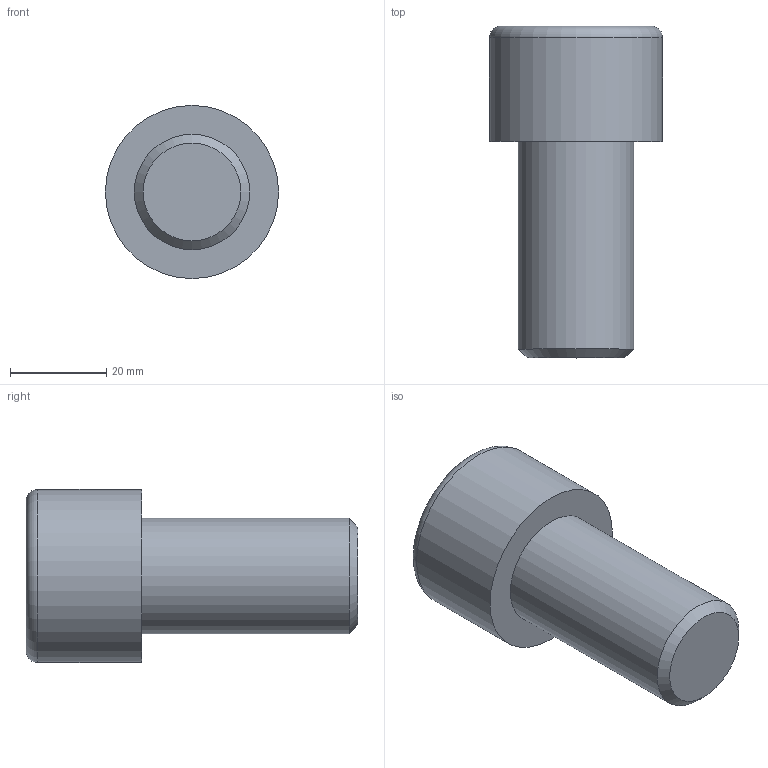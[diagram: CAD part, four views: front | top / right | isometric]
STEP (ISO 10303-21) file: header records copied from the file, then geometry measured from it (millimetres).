
FILE_DESCRIPTION(/* description */ (''),/* implementation_level */ '2;1');
FILE_NAME(/* name */ 'C:\Users\D\Documents\Inventor\各種小物\JIS\JIS B 1176 六角穴付きボルト\M24x45.stp',/* time_stamp */ '2022-05-09T19:00:01+09:00',/* author */ ('D'),/* organization */ (''),/* preprocessor_version */ 'ST-DEVELOPER v18',/* originating_system */ 'Autodesk Inventor 2020',/* authorisation */ '');
FILE_SCHEMA (('AUTOMOTIVE_DESIGN { 1 0 10303 214 3 1 1 }'));
Length unit declared in the file: millimetre
Products named in the file (1): M1.6x2.5
Bounding box: 36 x 69 x 36 mm (x, y, z)
Volume: 40002 mm3; surface area: 8813.1 mm2
Topology: 1 solids, 1 shells, 14 faces, 33 edges, 22 vertices
Faces by surface type: plane 9, cone 2, cylinder 2, torus 1
Full cylindrical faces by diameter (mm): 24 x1, 36 x1
Entity records: 435 total; most frequent: CARTESIAN_POINT 83, ORIENTED_EDGE 64, DIRECTION 64, EDGE_CURVE 32, AXIS2_PLACEMENT_3D 24, VERTEX_POINT 22, EDGE_LOOP 16, LINE 16
